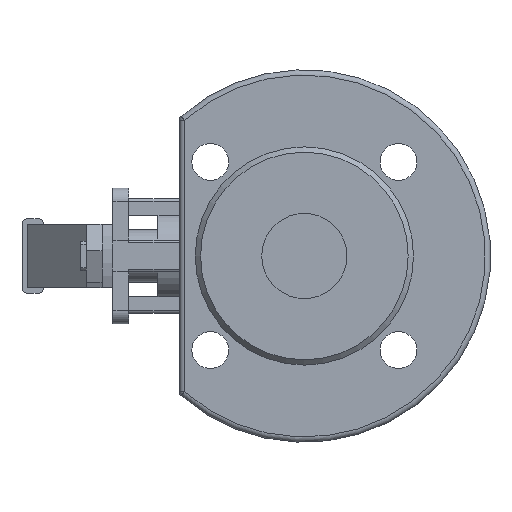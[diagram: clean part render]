
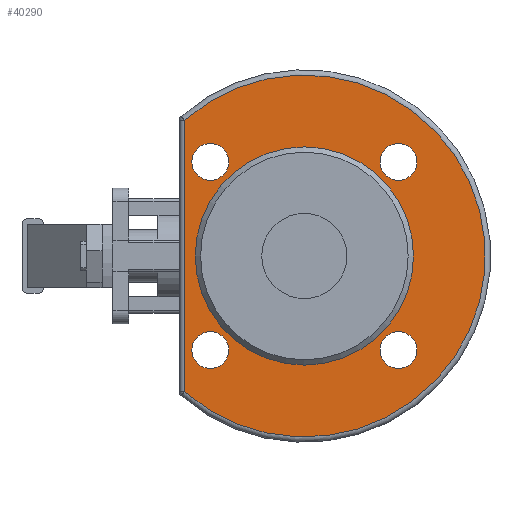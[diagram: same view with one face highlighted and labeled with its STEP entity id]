
A CAD part, left-side view. The second image highlights one B-rep face of the part: STEP entity #40290.
In plain terms, the highlighted planar face has unit normal (-1, 0, 0).
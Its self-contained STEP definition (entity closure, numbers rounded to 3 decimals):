
#40046=CARTESIAN_POINT('',(-28.,45.0,50.98));
#40047=VERTEX_POINT('',#40046);
#40063=CARTESIAN_POINT('',(-28.,45.0,-50.98));
#40064=VERTEX_POINT('',#40063);
#40072=CARTESIAN_POINT('',(-28.,45.0,-50.98));
#40073=DIRECTION('',(0.0,0.0,1.0));
#40074=VECTOR('',#40073,101.961);
#40075=LINE('',#40072,#40074);
#40076=EDGE_CURVE('',#40064,#40047,#40075,.T.);
#40220=CARTESIAN_POINT('',(-28.,55.5,0.0));
#40221=DIRECTION('',(-1.0,0.0,0.0));
#40222=DIRECTION('',(0.0,0.0,1.0));
#40223=AXIS2_PLACEMENT_3D('',#40220,#40221,#40222);
#40224=PLANE('',#40223);
#40225=ORIENTED_EDGE('',*,*,#40076,.F.);
#40226=CARTESIAN_POINT('',(-28.,0.0,0.0));
#40227=DIRECTION('',(1.0,0.0,0.0));
#40228=DIRECTION('',(0.0,-1.0,0.0));
#40229=AXIS2_PLACEMENT_3D('',#40226,#40227,#40228);
#40230=CIRCLE('',#40229,68.0);
#40231=EDGE_CURVE('',#40047,#40064,#40230,.T.);
#40232=ORIENTED_EDGE('',*,*,#40231,.F.);
#40233=EDGE_LOOP('',(#40225,#40232));
#40234=FACE_OUTER_BOUND('',#40233,.T.);
#40235=CARTESIAN_POINT('',(-28.,41.,0.0));
#40236=VERTEX_POINT('',#40235);
#40237=CARTESIAN_POINT('',(-28.,0.0,0.0));
#40238=DIRECTION('',(1.0,0.0,0.0));
#40239=DIRECTION('',(0.0,1.0,0.0));
#40240=AXIS2_PLACEMENT_3D('',#40237,#40238,#40239);
#40241=CIRCLE('',#40240,41.);
#40242=EDGE_CURVE('',#40236,#40236,#40241,.T.);
#40243=ORIENTED_EDGE('',*,*,#40242,.T.);
#40244=EDGE_LOOP('',(#40243));
#40245=FACE_BOUND('',#40244,.T.);
#40246=CARTESIAN_POINT('',(-28.,35.355,42.273));
#40247=VERTEX_POINT('',#40246);
#40248=CARTESIAN_POINT('',(-28.,35.355,35.355));
#40249=DIRECTION('',(1.0,0.0,0.0));
#40250=DIRECTION('',(0.0,0.0,1.0));
#40251=AXIS2_PLACEMENT_3D('',#40248,#40249,#40250);
#40252=CIRCLE('',#40251,6.918);
#40253=EDGE_CURVE('',#40247,#40247,#40252,.T.);
#40254=ORIENTED_EDGE('',*,*,#40253,.T.);
#40255=EDGE_LOOP('',(#40254));
#40256=FACE_BOUND('',#40255,.T.);
#40257=CARTESIAN_POINT('',(-28.,35.355,-28.438));
#40258=VERTEX_POINT('',#40257);
#40259=CARTESIAN_POINT('',(-28.,35.355,-35.355));
#40260=DIRECTION('',(1.0,0.0,0.0));
#40261=DIRECTION('',(0.0,0.0,1.0));
#40262=AXIS2_PLACEMENT_3D('',#40259,#40260,#40261);
#40263=CIRCLE('',#40262,6.918);
#40264=EDGE_CURVE('',#40258,#40258,#40263,.T.);
#40265=ORIENTED_EDGE('',*,*,#40264,.T.);
#40266=EDGE_LOOP('',(#40265));
#40267=FACE_BOUND('',#40266,.T.);
#40268=CARTESIAN_POINT('',(-28.,-35.355,-28.438));
#40269=VERTEX_POINT('',#40268);
#40270=CARTESIAN_POINT('',(-28.,-35.355,-35.355));
#40271=DIRECTION('',(1.0,0.0,0.0));
#40272=DIRECTION('',(0.0,0.0,1.0));
#40273=AXIS2_PLACEMENT_3D('',#40270,#40271,#40272);
#40274=CIRCLE('',#40273,6.918);
#40275=EDGE_CURVE('',#40269,#40269,#40274,.T.);
#40276=ORIENTED_EDGE('',*,*,#40275,.T.);
#40277=EDGE_LOOP('',(#40276));
#40278=FACE_BOUND('',#40277,.T.);
#40279=CARTESIAN_POINT('',(-28.,-35.355,42.273));
#40280=VERTEX_POINT('',#40279);
#40281=CARTESIAN_POINT('',(-28.,-35.355,35.355));
#40282=DIRECTION('',(1.0,0.0,0.0));
#40283=DIRECTION('',(0.0,0.0,1.0));
#40284=AXIS2_PLACEMENT_3D('',#40281,#40282,#40283);
#40285=CIRCLE('',#40284,6.918);
#40286=EDGE_CURVE('',#40280,#40280,#40285,.T.);
#40287=ORIENTED_EDGE('',*,*,#40286,.T.);
#40288=EDGE_LOOP('',(#40287));
#40289=FACE_BOUND('',#40288,.T.);
#40290=ADVANCED_FACE('',(#40234,#40245,#40256,#40267,#40278,#40289),#40224,.T.);
